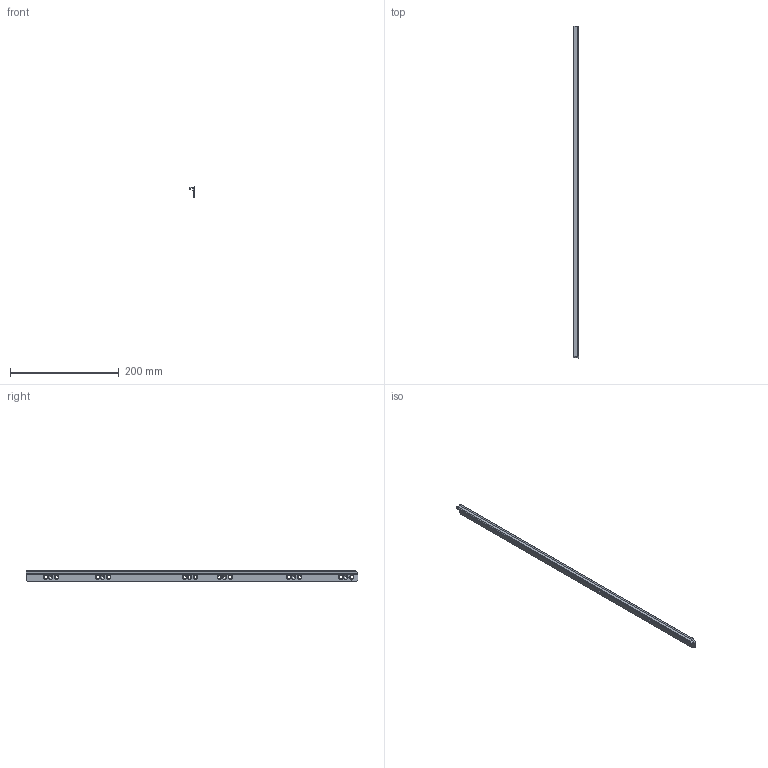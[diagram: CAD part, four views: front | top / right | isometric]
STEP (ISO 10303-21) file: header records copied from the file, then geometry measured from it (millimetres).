
FILE_DESCRIPTION (( 'STEP AP214' ), '1' );
FILE_NAME ('Zahnstange-rechts_NL600_K760018100.step', '2010-09-22T07:56:44', ( 'grass' ), ( '' ), 'SwSTEP 2.0', 'SolidWorks 2010', '' );
FILE_SCHEMA (( 'AUTOMOTIVE_DESIGN' ));
Length unit declared in the file: millimetre
Products named in the file (1): Zahnstange-rechts_NL600_K760018100
Bounding box: 9.5 x 612 x 20 mm (x, y, z)
Volume: 37802.7 mm3; surface area: 36875.6 mm2
Topology: 1 solids, 1 shells, 116 faces, 286 edges, 171 vertices
Faces by surface type: cylinder 64, cone 36, plane 16
Entity records: 3521 total; most frequent: DIRECTION 650, CARTESIAN_POINT 595, ORIENTED_EDGE 572, EDGE_CURVE 286, AXIS2_PLACEMENT_3D 254, VERTEX_POINT 171, EDGE_LOOP 151, VECTOR 142
